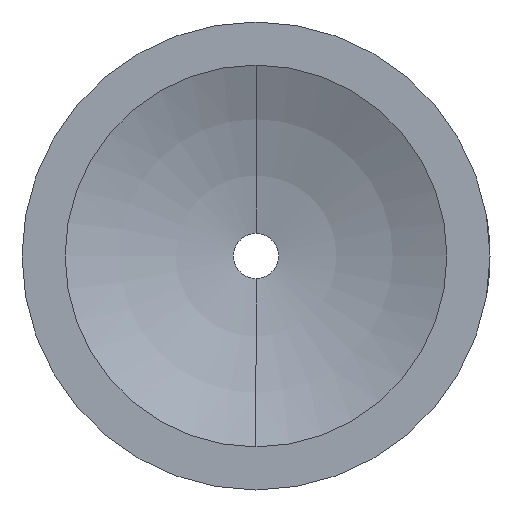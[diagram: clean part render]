
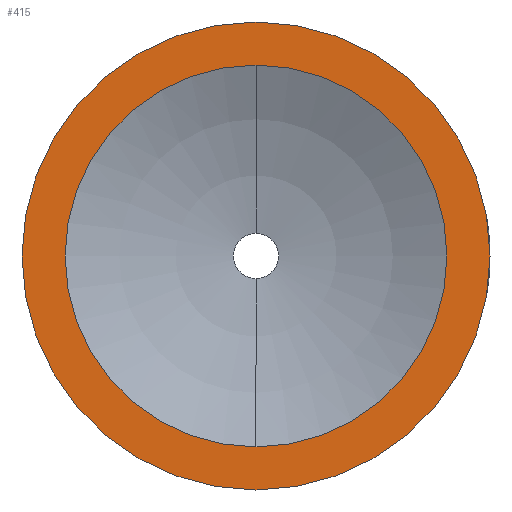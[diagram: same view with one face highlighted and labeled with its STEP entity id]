
A CAD part, left-side view. The second image highlights one B-rep face of the part: STEP entity #415.
In plain terms, the highlighted planar face has unit normal (-1, 0, 0).
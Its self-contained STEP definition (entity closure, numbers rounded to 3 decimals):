
#9 = ORIENTED_EDGE ( 'NONE', *, *, #437, .T. ) ;
#24 = CARTESIAN_POINT ( 'NONE',  ( 0., 0., 0. ) ) ;
#33 = DIRECTION ( 'NONE',  ( -1., 0., 0. ) ) ;
#41 = DIRECTION ( 'NONE',  ( 0., 0., 1. ) ) ;
#49 = EDGE_CURVE ( 'NONE', #103, #280, #196, .T. ) ;
#80 = DIRECTION ( 'NONE',  ( 0., 0., 1. ) ) ;
#103 = VERTEX_POINT ( 'NONE', #426 ) ;
#161 = AXIS2_PLACEMENT_3D ( 'NONE', #24, #33, #41 ) ;
#163 = CIRCLE ( 'NONE', #161, 19. ) ;
#171 = DIRECTION ( 'NONE',  ( -1., 0., 0. ) ) ;
#196 = CIRCLE ( 'NONE', #417, 15.5 ) ;
#203 = AXIS2_PLACEMENT_3D ( 'NONE', #265, #171, #453 ) ;
#204 = VERTEX_POINT ( 'NONE', #262 ) ;
#236 = CARTESIAN_POINT ( 'NONE',  ( 0., 1.75, 0. ) ) ;
#239 = FACE_BOUND ( 'NONE', #321, .T. ) ;
#240 = AXIS2_PLACEMENT_3D ( 'NONE', #478, #481, #459 ) ;
#257 = DIRECTION ( 'NONE',  ( 0., 0., -1. ) ) ;
#262 = CARTESIAN_POINT ( 'NONE',  ( 0., 0., 19. ) ) ;
#263 = CARTESIAN_POINT ( 'NONE',  ( 0., 0., 0. ) ) ;
#265 = CARTESIAN_POINT ( 'NONE',  ( 0., 0., 0. ) ) ;
#268 = CARTESIAN_POINT ( 'NONE',  ( 0., 0., -15.5 ) ) ;
#280 = VERTEX_POINT ( 'NONE', #268 ) ;
#288 = DIRECTION ( 'NONE',  ( -1., 0., 0. ) ) ;
#291 = CARTESIAN_POINT ( 'NONE',  ( 0., 0., -19. ) ) ;
#303 = CIRCLE ( 'NONE', #240, 15.5 ) ;
#306 = PLANE ( 'NONE',  #384 ) ;
#321 = EDGE_LOOP ( 'NONE', ( #364, #414 ) ) ;
#364 = ORIENTED_EDGE ( 'NONE', *, *, #49, .F. ) ;
#384 = AXIS2_PLACEMENT_3D ( 'NONE', #236, #480, #257 ) ;
#402 = EDGE_CURVE ( 'NONE', #280, #103, #303, .T. ) ;
#410 = FACE_OUTER_BOUND ( 'NONE', #425, .T. ) ;
#414 = ORIENTED_EDGE ( 'NONE', *, *, #402, .F. ) ;
#415 = ADVANCED_FACE ( 'NONE', ( #239, #410 ), #306, .F. ) ;
#417 = AXIS2_PLACEMENT_3D ( 'NONE', #263, #288, #80 ) ;
#425 = EDGE_LOOP ( 'NONE', ( #9, #446 ) ) ;
#426 = CARTESIAN_POINT ( 'NONE',  ( 0., 0., 15.5 ) ) ;
#435 = VERTEX_POINT ( 'NONE', #291 ) ;
#437 = EDGE_CURVE ( 'NONE', #204, #435, #445, .T. ) ;
#445 = CIRCLE ( 'NONE', #203, 19. ) ;
#446 = ORIENTED_EDGE ( 'NONE', *, *, #529, .T. ) ;
#453 = DIRECTION ( 'NONE',  ( 0., 0., 1. ) ) ;
#459 = DIRECTION ( 'NONE',  ( 0., 0., 1. ) ) ;
#478 = CARTESIAN_POINT ( 'NONE',  ( 0., 0., 0. ) ) ;
#480 = DIRECTION ( 'NONE',  ( 1., 0., 0. ) ) ;
#481 = DIRECTION ( 'NONE',  ( -1., 0., 0. ) ) ;
#529 = EDGE_CURVE ( 'NONE', #435, #204, #163, .T. ) ;
